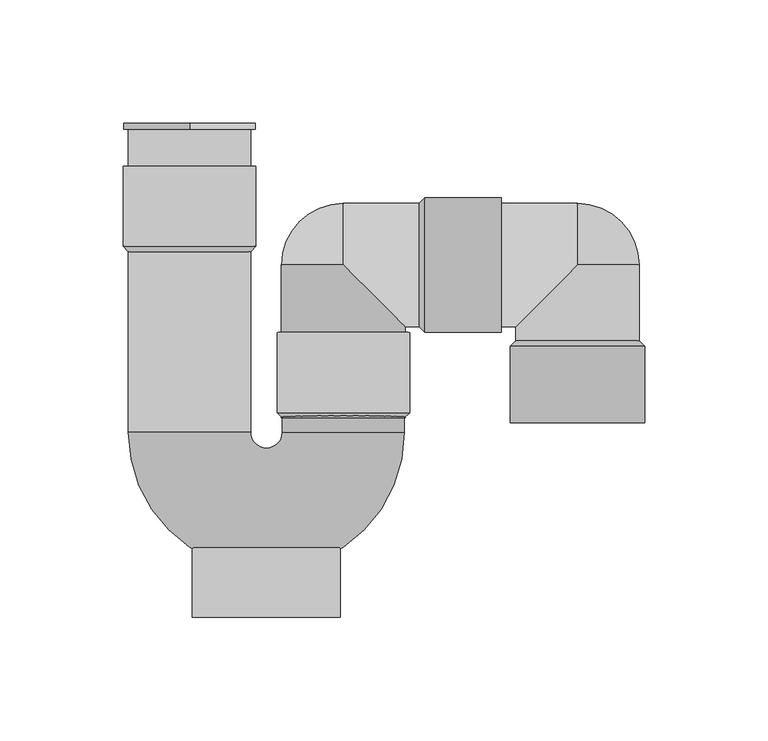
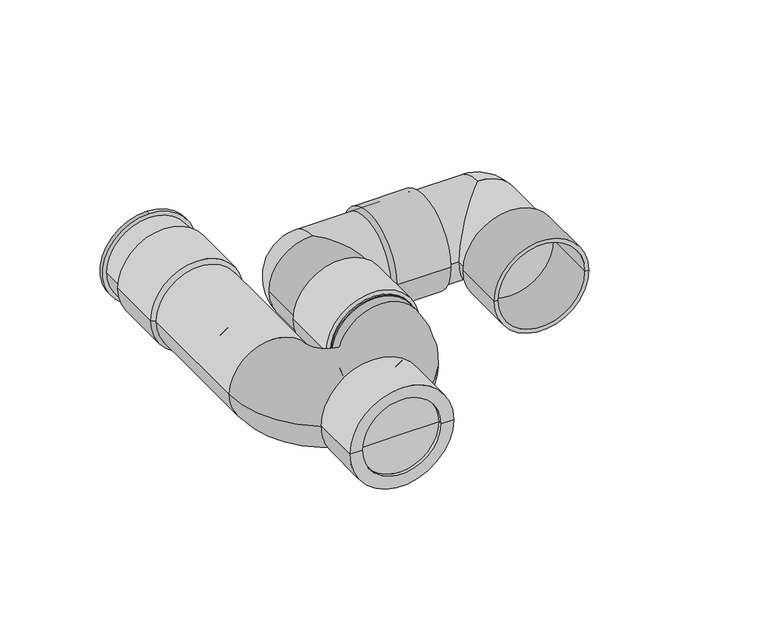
"""IFC4 building model written with IfcOpenShell, lengths in millimetres: pipe fitting geometry, NLRS_52_UN_PIF_PVC Universeel Sifon_PipeLife : Grijs, var. DN/OD."""

import ifcopenshell
import ifcopenshell.guid

model = None  # the IFC model being written
_history = None  # IfcOwnerHistory: only IFC2X3 demands one
_inside = {}  # id of a spatial element -> (the spatial element, [elements in it])
_under = {}  # id of a project, library or spatial element -> (it, [spatial elements below it])
_declared = {}  # id of a project -> (the project, [libraries it declares])
_typed = {}  # id of a type object -> (the type object, [elements of that type])
_made_of = {}  # id of a material, layer set ... -> (it, [elements and type objects made of it])


def new_model(schema):
    """Start an empty IFC model of exactly this schema.

    Asked for "IFC4X3", IfcOpenShell would pick the latest addendum, in which some entities
    have other attributes; the version numbers below select the first issue.
    IFC2X3 requires an IfcOwnerHistory on every rooted entity: one is made here for all.
    """
    global model, _history
    if schema == "IFC4X3":
        model = ifcopenshell.file(schema_version=(4, 3, 0, 0))
    else:
        model = ifcopenshell.file(schema=schema)
    _inside.clear()
    _under.clear()
    _declared.clear()
    _typed.clear()
    _made_of.clear()
    _history = None
    if model.schema == "IFC2X3":
        org = make("IfcOrganization", Name="unknown")
        user = make(
            "IfcPersonAndOrganization",
            ThePerson=make("IfcPerson", FamilyName="unknown"),
            TheOrganization=org,
        )
        app = make(
            "IfcApplication",
            ApplicationDeveloper=org,
            Version="unknown",
            ApplicationFullName="unknown",
            ApplicationIdentifier="unknown",
        )
        _history = make(
            "IfcOwnerHistory",
            OwningUser=user,
            OwningApplication=app,
            ChangeAction="ADDED",
            CreationDate=0,
        )
    return model


def make(cls, **values):
    """One entity of the class cls with the attributes given. An attribute that is None is left unset."""
    return model.create_entity(
        cls, **{name: value for name, value in values.items() if value is not None}
    )


def rooted(cls, **values):
    """An entity with a GlobalId (a new one), such as an element, a storey or a relation."""
    return make(cls, GlobalId=ifcopenshell.guid.new(), OwnerHistory=_history, **values)


def si_unit(unit_type, name, prefix=None):
    """IfcSIUnit, for example si_unit("LENGTHUNIT", "METRE", prefix="MILLI")."""
    return make("IfcSIUnit", UnitType=unit_type, Prefix=prefix, Name=name)


def assignment(units):
    """IfcUnitAssignment: the units of a project."""
    return None if units is None else make("IfcUnitAssignment", Units=units)


def point(xyz):
    """IfcCartesianPoint."""
    return None if xyz is None else make("IfcCartesianPoint", Coordinates=xyz)


def direction(xyz):
    """IfcDirection."""
    return None if xyz is None else make("IfcDirection", DirectionRatios=xyz)


def frame(location, z_axis=None, x_axis=None):
    """IfcAxis2Placement3D, a coordinate frame: its origin and axes. An axis left out is left unset."""
    return make(
        "IfcAxis2Placement3D",
        Location=point(location),
        Axis=direction(z_axis),
        RefDirection=direction(x_axis),
    )


def frame_2d(location, x_axis=None):
    """IfcAxis2Placement2D, a coordinate frame in the plane: its origin and x axis."""
    return make(
        "IfcAxis2Placement2D", Location=point(location), RefDirection=direction(x_axis)
    )


def origin():
    """The frame at (0, 0, 0) with its axes left unset."""
    return frame((0.0, 0.0, 0.0))


def origin_2d():
    """The frame at (0, 0) in the plane with its x axis left unset."""
    return frame_2d((0.0, 0.0))


def place(relative_to, where):
    """IfcLocalPlacement: puts the frame where relative to a parent placement (None: the world)."""
    return make(
        "IfcLocalPlacement", PlacementRelTo=relative_to, RelativePlacement=where
    )


def context(
    kind, dimensions, precision=None, world=None, true_north=None, identifier=None
):
    """IfcGeometricRepresentationContext, for example the 3D "Model" context."""
    return make(
        "IfcGeometricRepresentationContext",
        ContextIdentifier=identifier,
        ContextType=kind,
        CoordinateSpaceDimension=dimensions,
        Precision=precision,
        WorldCoordinateSystem=world,
        TrueNorth=true_north,
    )


def project(units=None, contexts=None):
    """IfcProject with its units and contexts."""
    return rooted(
        "IfcProject",
        Name="project",
        RepresentationContexts=contexts,
        UnitsInContext=assignment(units),
    )


def spatial(cls, under=None, at=None, **own):
    """A site, building, storey or space (cls), placed at a placement, below another one or the project."""
    s = rooted(cls, ObjectPlacement=at, **own)
    if under is not None:
        _under.setdefault(under.id(), (under, []))[1].append(s)
    return s


def polyline(points):
    """IfcPolyline through the points."""
    return make("IfcPolyline", Points=[point(p) for p in points])


def circle_curve(where, radius):
    """IfcCircle in the frame where."""
    return make("IfcCircle", Position=where, Radius=radius)


def ellipse_curve(where, semi_axis1, semi_axis2):
    """IfcEllipse in the frame where."""
    return make(
        "IfcEllipse", Position=where, SemiAxis1=semi_axis1, SemiAxis2=semi_axis2
    )


def trimmed(basis, trim1, trim2, sense, master):
    """IfcTrimmedCurve: the piece of a basis curve between two trims."""
    return make(
        "IfcTrimmedCurve",
        BasisCurve=basis,
        Trim1=trim1,
        Trim2=trim2,
        SenseAgreement=sense,
        MasterRepresentation=master,
    )


def segment(curve, same_sense, transition):
    """IfcCompositeCurveSegment."""
    return make(
        "IfcCompositeCurveSegment",
        Transition=transition,
        SameSense=same_sense,
        ParentCurve=curve,
    )


def composite_curve(segments, self_intersect=None):
    """IfcCompositeCurve: segments joined end to end."""
    return make("IfcCompositeCurve", Segments=segments, SelfIntersect=self_intersect)


def outline(outer, holes=None, kind="AREA"):
    """IfcArbitraryClosedProfileDef: a profile drawn as a closed curve; with holes, ...WithVoids."""
    if holes is None:
        return make("IfcArbitraryClosedProfileDef", ProfileType=kind, OuterCurve=outer)
    return make(
        "IfcArbitraryProfileDefWithVoids",
        ProfileType=kind,
        OuterCurve=outer,
        InnerCurves=holes,
    )


def extrude(swept, where, along, depth):
    """IfcExtrudedAreaSolid: the profile swept, set in the frame where, extruded along a direction by depth."""
    return make(
        "IfcExtrudedAreaSolid",
        SweptArea=swept,
        Position=where,
        ExtrudedDirection=direction(along),
        Depth=depth,
    )


def shape(context_of_items, identifier, shape_type, items):
    """IfcShapeRepresentation: the items that make up one representation, for example the "Body"."""
    return make(
        "IfcShapeRepresentation",
        ContextOfItems=context_of_items,
        RepresentationIdentifier=identifier,
        RepresentationType=shape_type,
        Items=items,
    )


def source(mapping_origin, context_of_items, identifier, shape_type, items):
    """IfcRepresentationMap: a shape defined once, which mapped items show again and again."""
    return make(
        "IfcRepresentationMap",
        MappingOrigin=mapping_origin,
        MappedRepresentation=shape(context_of_items, identifier, shape_type, items),
    )


def transform(
    local_origin,
    x_axis=None,
    y_axis=None,
    z_axis=None,
    scale=None,
    scale2=None,
    scale3=None,
    uniform=True,
):
    """IfcCartesianTransformationOperator3D, or its non-uniform kind. x_axis, y_axis, z_axis: its Axis1, 2, 3."""
    if uniform:
        return make(
            "IfcCartesianTransformationOperator3D",
            Axis1=direction(x_axis),
            Axis2=direction(y_axis),
            LocalOrigin=point(local_origin),
            Scale=scale,
            Axis3=direction(z_axis),
        )
    return make(
        "IfcCartesianTransformationOperator3DnonUniform",
        Axis1=direction(x_axis),
        Axis2=direction(y_axis),
        LocalOrigin=point(local_origin),
        Scale=scale,
        Axis3=direction(z_axis),
        Scale2=scale2,
        Scale3=scale3,
    )


def mapped(mapping_source, mapping_target):
    """IfcMappedItem: shows the shape of a source again, moved by a transform."""
    return make(
        "IfcMappedItem", MappingSource=mapping_source, MappingTarget=mapping_target
    )


def made_of(thing, what):
    """Note that an element or type object is made of a material, layer set ...; save() writes the relation."""
    if what is not None:
        _made_of.setdefault(what.id(), (what, []))[1].append(thing)
    return thing


def element(
    cls,
    number,
    at=None,
    inside=None,
    cuts=None,
    type_object=None,
    material=None,
    context=None,
    identifier="Body",
    shape_type=None,
    held_by="IfcProductDefinitionShape",
    body=None,
    shapes=None,
    **own,
):
    """One element of the class cls, such as IfcWall. Its Tag is "e" and its number.

    at: its placement. inside: the storey or other place that contains it. cuts: it is an
    opening in that element (IfcRelVoidsElement). A single representation is given by context,
    identifier, shape_type and body (its items); several are given by shapes. held_by: the class
    of the entity that holds the representations. save() writes the other relations.
    """
    e = rooted(cls, Tag="e%d" % number, ObjectPlacement=at, **own)
    if body is not None:
        shapes = [shape(context, identifier, shape_type, body)]
    if shapes is not None:
        e.Representation = make(held_by, Representations=shapes)
    if inside is not None:
        _inside.setdefault(inside.id(), (inside, []))[1].append(e)
    if cuts is not None:
        rooted(
            "IfcRelVoidsElement", RelatingBuildingElement=cuts, RelatedOpeningElement=e
        )
    if type_object is not None:
        _typed.setdefault(type_object.id(), (type_object, []))[1].append(e)
    return made_of(e, material)


def aggregate(whole, parts):
    """IfcRelAggregates: a whole, such as a stair, and the parts it consists of."""
    return rooted("IfcRelAggregates", RelatingObject=whole, RelatedObjects=parts)


def save(model, path):
    """Write the relations noted so far, then the file.

    IfcRelAggregates (storeys below a building ...), IfcRelContainedInSpatialStructure (elements
    in a storey), IfcRelDefinesByType, IfcRelAssociatesMaterial and IfcRelDeclares: one each for
    every whole, place, type object, material and project.
    """
    for whole, parts in _under.values():
        aggregate(whole, parts)
    for where, things in _inside.values():
        rooted(
            "IfcRelContainedInSpatialStructure",
            RelatedElements=things,
            RelatingStructure=where,
        )
    for kind, things in _typed.values():
        rooted("IfcRelDefinesByType", RelatedObjects=things, RelatingType=kind)
    for what, things in _made_of.values():
        rooted("IfcRelAssociatesMaterial", RelatedObjects=things, RelatingMaterial=what)
    for by, libraries in _declared.values():
        rooted("IfcRelDeclares", RelatingContext=by, RelatedDefinitions=libraries)
    model.write(path)


def plane_surface(at):
    """IfcPlane: the flat surface through the origin of the frame at, square to its z axis."""
    return make("IfcPlane", Position=at)


def cylinder_surface(at, radius):
    """IfcCylindricalSurface: all points at the distance radius from the z axis of the frame at."""
    return make("IfcCylindricalSurface", Position=at, Radius=radius)


def revolved_surface(curve, axis_point, axis_direction):
    """IfcSurfaceOfRevolution: the curve turned about the line through axis_point along axis_direction."""
    return make(
        "IfcSurfaceOfRevolution",
        SweptCurve=make("IfcArbitraryOpenProfileDef", ProfileType="CURVE", Curve=curve),
        AxisPosition=make("IfcAxis1Placement", Location=point(axis_point), Axis=direction(axis_direction)),
    )


def advanced_brep(points, edges, surfaces, faces):
    """IfcAdvancedBrep: a solid bounded by faces that lie on surfaces and meet in shared edges.

    An edge is (start, end): straight between two places in points (the first is 0);
    or (start, end, curve); or (start, end, curve, False) where it runs against its curve.
    A face is (place in surfaces, loops), or (place, loops, False) where it looks against
    its surface's normal. A loop lists edges by number (the first is 1), with a minus sign
    where the edge is run from its end to its start. The first loop is the outer one.
    """
    corners = [point(p) for p in points]
    vertices = [make("IfcVertexPoint", VertexGeometry=c) for c in corners]
    made = []
    for start, end, *more in edges:
        made.append(
            make(
                "IfcEdgeCurve",
                EdgeStart=vertices[start],
                EdgeEnd=vertices[end],
                EdgeGeometry=more[0] if more else make("IfcPolyline", Points=[corners[start], corners[end]]),
                SameSense=more[1] if len(more) > 1 else True,
            )
        )
    hull = []
    for where, loops, *sense in faces:
        bounds = []
        for j, loop in enumerate(loops):
            ring = [make("IfcOrientedEdge", EdgeElement=made[abs(k) - 1], Orientation=k > 0) for k in loop]
            bounds.append(
                make(
                    "IfcFaceOuterBound" if j == 0 else "IfcFaceBound",
                    Bound=make("IfcEdgeLoop", EdgeList=ring),
                    Orientation=True,
                )
            )
        hull.append(make("IfcAdvancedFace", Bounds=bounds, FaceSurface=surfaces[where], SameSense=sense[0] if sense else True))
    return make("IfcAdvancedBrep", Outer=make("IfcClosedShell", CfsFaces=hull))


def pipe_fitting_5b2b1213(model_context):
    return source(origin(), model_context, "Body", "SolidModel", [
        advanced_brep(
        [(126.4, -11.6183548, 0.0), (126.4, 42.9816452, 0.0), (126.4, 40.7816452, 0.0), (126.4, -9.4183548, 0.0), (95.4, -11.6183548, 0.0), (95.4, 42.9816452, 0.0), (93.2, -9.4183548, 0.0), (93.2, 40.7816452, 0.0)],
        [
            (0, 1, circle_curve(frame((126.4, 15.6816452, 0.0), z_axis=(1.0, 0.0, 0.0), x_axis=(0.0, 1.0000000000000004, 0.0)), 27.3)),
            (1, 2),
            (2, 3, circle_curve(frame((126.4, 15.6816452, 0.0), z_axis=(-1.0, 0.0, 0.0), x_axis=(0.0, 1.0000000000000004, 0.0)), 25.1)),
            (3, 0),
            (1, 0, circle_curve(frame((126.4, 15.6816452, 0.0), z_axis=(1.0, 0.0, 0.0), x_axis=(0.0, 1.0000000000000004, 0.0)), 27.3)),
            (3, 2, circle_curve(frame((126.4, 15.6816452, 0.0), z_axis=(-1.0, 0.0, 0.0), x_axis=(0.0, 1.0000000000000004, 0.0)), 25.1)),
            (4, 5, circle_curve(frame((95.4, 15.6816452, 0.0), z_axis=(1.0, 0.0, 0.0), x_axis=(0.0, 1.0000000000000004, 0.0)), 27.3)),
            (5, 1),
            (0, 4),
            (5, 4, circle_curve(frame((95.4, 15.6816452, 0.0), z_axis=(1.0, 0.0, 0.0), x_axis=(0.0, 1.0000000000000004, 0.0)), 27.3)),
            (6, 7, circle_curve(frame((93.2, 15.6816452, 0.0), z_axis=(1.0, 0.0, 0.0), x_axis=(0.0, 1.0000000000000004, 0.0)), 25.1)),
            (7, 5),
            (4, 6),
            (7, 6, circle_curve(frame((93.2, 15.6816452, 0.0), z_axis=(1.0, 0.0, 0.0), x_axis=(0.0, 1.0000000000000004, 0.0)), 25.1)),
            (2, 7),
            (6, 3),
        ],
        [
            plane_surface(frame((126.4, 15.6816452, 0.0), z_axis=(1.0, 0.0, 0.0), x_axis=(0.0, 1.0, 0.0))),
            cylinder_surface(frame((95.4, 15.6816452, 0.0), z_axis=(-1.0000000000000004, 0.0, 0.0), x_axis=(0.0, 1.0000000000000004, 0.0)), 27.3),
            revolved_surface(polyline([(95.4, 42.9816452, 0.0), (93.2, 40.7816452, 0.0)]), (95.4, 15.6816452, 0.0), (-1.0000000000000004, 0.0, 0.0)),
            revolved_surface(polyline([(93.2, 40.781645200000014, 0.0), (126.40000000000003, 40.781645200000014, 0.0)]), (95.4, 15.6816452, 0.0), (-1.0000000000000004, 0.0, 0.0)),
        ],
        [
            (0, [[1, 2, 3, 4]]),
            (0, [[5, -4, 6, -2]]),
            (1, [[7, 8, -1, 9]]),
            (1, [[10, -9, -5, -8]]),
            (2, [[11, 12, -7, 13]]),
            (2, [[14, -13, -10, -12]]),
            (3, [[-3, 15, -11, 16]]),
            (3, [[-6, -16, -14, -15]]),
        ],
    ),
        advanced_brep(
        [(37.3, -46.3183548, 0.0), (87.5, -46.3183548, 0.0), (87.5, -9.4183548, 0.0), (62.4, 15.6816452, 25.1), (37.3, 15.6816452, 0.0), (62.4, 15.6816452, -25.1), (95.4, 40.7816452, 0.0), (95.4, -9.4183548, 0.0), (62.4, 40.7816452, 0.0)],
        [
            (0, 1, circle_curve(frame((62.4, -46.3183548, 0.0), z_axis=(0.0, -1.0, 0.0), x_axis=(1.0000000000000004, 0.0, 0.0)), 25.1)),
            (1, 0, circle_curve(frame((62.4, -46.3183548, 0.0), z_axis=(0.0, -1.0, 0.0), x_axis=(1.0000000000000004, 0.0, 0.0)), 25.1)),
            (1, 2),
            (2, 3, ellipse_curve(frame((62.4, 15.6816452, 0.0), z_axis=(-0.7071067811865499, -0.7071067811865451, 0.0), x_axis=(-0.7071067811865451, 0.7071067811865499, 0.0)), 35.4967604, 25.1)),
            (3, 4, circle_curve(frame((62.4, 15.6816452, 0.0), z_axis=(0.0, -1.0, 0.0), x_axis=(1.0000000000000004, 0.0, 0.0)), 25.1)),
            (4, 0),
            (4, 5, circle_curve(frame((62.4, 15.6816452, 0.0), z_axis=(0.0, -1.0, 0.0), x_axis=(1.0000000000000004, 0.0, 0.0)), 25.1)),
            (5, 2, ellipse_curve(frame((62.4, 15.6816452, 0.0), z_axis=(-0.7071067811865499, -0.7071067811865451, 0.0), x_axis=(-0.7071067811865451, 0.7071067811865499, 0.0)), 35.4967604, 25.1)),
            (6, 7, circle_curve(frame((95.4, 15.6816452, 0.0), z_axis=(1.0, 0.0, 0.0), x_axis=(0.0, -1.0000000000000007, 0.0)), 25.1)),
            (7, 6, circle_curve(frame((95.4, 15.6816452, 0.0), z_axis=(1.0, 0.0, 0.0), x_axis=(0.0, -1.0000000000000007, 0.0)), 25.1)),
            (6, 8),
            (8, 3, circle_curve(frame((62.4, 15.6816452, 0.0), z_axis=(1.0, 0.0, 0.0), x_axis=(0.0, -1.0000000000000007, 0.0)), 25.1)),
            (2, 7),
            (5, 8, circle_curve(frame((62.4, 15.6816452, 0.0), z_axis=(1.0, 0.0, 0.0), x_axis=(0.0, -1.0000000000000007, 0.0)), 25.1)),
        ],
        [
            plane_surface(frame((62.4, -46.3183548, 0.0), z_axis=(0.0, -1.0, 0.0), x_axis=(0.0, 0.0, 1.0))),
            cylinder_surface(frame((62.4, 15.6816452, 0.0), z_axis=(0.0, 1.0000000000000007, 0.0), x_axis=(1.0000000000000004, 0.0, 0.0)), 25.1),
            plane_surface(frame((95.4, 15.6816452, 0.0), z_axis=(1.0, 0.0, 0.0), x_axis=(0.0, 0.0, 1.0))),
            cylinder_surface(frame((95.4, 15.6816452, 0.0), z_axis=(1.0000000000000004, 0.0, 0.0), x_axis=(0.0, -1.0000000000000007, 0.0)), 25.1),
            revolved_surface(trimmed(ellipse_curve(frame((62.4, 15.6816452, 0.0), z_axis=(1.0000000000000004, 0.0, 0.0), x_axis=(0.0, 0.0, 1.0000000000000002)), 25.1, 25.1), [point((62.4, 15.6816452, -25.1))], [point((62.4, 15.6816452, 25.1))], True, "CARTESIAN"), (62.4, 15.6816452, -6.3375), (0.0, 0.0, 1.0000000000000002)),
        ],
        [
            (0, [[1, 2]]),
            (1, [[-2, 3, 4, 5, 6]]),
            (1, [[-1, -6, 7, 8, -3]]),
            (2, [[9, 10]]),
            (3, [[-9, 11, 12, -4, 13]]),
            (3, [[-10, -13, -8, 14, -11]]),
            (4, [[-5, -12, -14, -7]]),
        ],
    ),
        advanced_brep(
        [(130.1, -48.3183548, 0.0), (184.7, -48.3183548, 0.0), (182.5, -48.3183548, 0.0), (132.3, -48.3183548, 0.0), (130.1, -17.3183548, 0.0), (184.7, -17.3183548, 0.0), (132.3, -15.1183548, 0.0), (182.5, -15.1183548, 0.0)],
        [
            (0, 1, circle_curve(frame((157.4, -48.3183548, 0.0), z_axis=(0.0, -1.0, 0.0), x_axis=(1.0000000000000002, 0.0, 0.0)), 27.3)),
            (1, 2),
            (2, 3, circle_curve(frame((157.4, -48.3183548, 0.0), z_axis=(0.0, 1.0, 0.0), x_axis=(1.0000000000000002, 0.0, 0.0)), 25.1)),
            (3, 0),
            (1, 0, circle_curve(frame((157.4, -48.3183548, 0.0), z_axis=(0.0, -1.0, 0.0), x_axis=(1.0000000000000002, 0.0, 0.0)), 27.3)),
            (3, 2, circle_curve(frame((157.4, -48.3183548, 0.0), z_axis=(0.0, 1.0, 0.0), x_axis=(1.0000000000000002, 0.0, 0.0)), 25.1)),
            (4, 5, circle_curve(frame((157.4, -17.3183548, 0.0), z_axis=(0.0, -1.0, 0.0), x_axis=(1.0000000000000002, 0.0, 0.0)), 27.3)),
            (5, 1),
            (0, 4),
            (5, 4, circle_curve(frame((157.4, -17.3183548, 0.0), z_axis=(0.0, -1.0, 0.0), x_axis=(1.0000000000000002, 0.0, 0.0)), 27.3)),
            (6, 7, circle_curve(frame((157.4, -15.1183548, 0.0), z_axis=(0.0, -1.0, 0.0), x_axis=(1.0000000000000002, 0.0, 0.0)), 25.1)),
            (7, 5),
            (4, 6),
            (7, 6, circle_curve(frame((157.4, -15.1183548, 0.0), z_axis=(0.0, -1.0, 0.0), x_axis=(1.0000000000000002, 0.0, 0.0)), 25.1)),
            (2, 7),
            (6, 3),
        ],
        [
            plane_surface(frame((157.4, -48.3183548, 0.0), z_axis=(0.0, -1.0, 0.0), x_axis=(1.0, 0.0, 0.0))),
            cylinder_surface(frame((157.4, -17.3183548, 0.0), z_axis=(0.0, 1.0000000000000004, 0.0), x_axis=(1.0000000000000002, 0.0, 0.0)), 27.3),
            revolved_surface(polyline([(184.7, -17.3183548, 0.0), (182.5, -15.1183548, 0.0)]), (157.4, -17.3183548, 0.0), (0.0, 1.0000000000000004, 0.0)),
            revolved_surface(polyline([(182.5, -15.118354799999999, 0.0), (182.5, -48.31835480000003, 0.0)]), (157.4, -17.3183548, 0.0), (0.0, 1.0000000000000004, 0.0)),
        ],
        [
            (0, [[1, 2, 3, 4]]),
            (0, [[5, -4, 6, -2]]),
            (1, [[7, 8, -1, 9]]),
            (1, [[10, -9, -5, -8]]),
            (2, [[11, 12, -7, 13]]),
            (2, [[14, -13, -10, -12]]),
            (3, [[-3, 15, -11, 16]]),
            (3, [[-6, -16, -14, -15]]),
        ],
    ),
        advanced_brep(
        [(95.4, 40.7816452, 0.0), (95.4, -9.4183548, 0.0), (132.3, -9.4183548, 0.0), (157.4, 15.6816452, 25.1), (157.4, 40.7816452, 0.0), (157.4, 15.6816452, -25.1), (182.5, -17.3183548, 0.0), (132.3, -17.3183548, 0.0), (182.5, 15.6816452, 0.0)],
        [
            (0, 1, circle_curve(frame((95.4, 15.6816452, 0.0), z_axis=(-1.0, 0.0, 0.0), x_axis=(0.0, -1.0000000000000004, 0.0)), 25.1)),
            (1, 0, circle_curve(frame((95.4, 15.6816452, 0.0), z_axis=(-1.0, 0.0, 0.0), x_axis=(0.0, -1.0000000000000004, 0.0)), 25.1)),
            (1, 2),
            (2, 3, ellipse_curve(frame((157.4, 15.6816452, 0.0), z_axis=(-0.707106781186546, 0.7071067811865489, 0.0), x_axis=(0.7071067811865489, 0.707106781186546, 0.0)), 35.4967604, 25.1)),
            (3, 4, circle_curve(frame((157.4, 15.6816452, 0.0), z_axis=(-1.0, 0.0, 0.0), x_axis=(0.0, -1.0000000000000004, 0.0)), 25.1)),
            (4, 0),
            (4, 5, circle_curve(frame((157.4, 15.6816452, 0.0), z_axis=(-1.0, 0.0, 0.0), x_axis=(0.0, -1.0000000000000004, 0.0)), 25.1)),
            (5, 2, ellipse_curve(frame((157.4, 15.6816452, 0.0), z_axis=(-0.707106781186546, 0.7071067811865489, 0.0), x_axis=(0.7071067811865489, 0.707106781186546, 0.0)), 35.4967604, 25.1)),
            (6, 7, circle_curve(frame((157.4, -17.3183548, 0.0), z_axis=(0.0, -1.0, 0.0), x_axis=(-1.0000000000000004, 0.0, 0.0)), 25.1)),
            (7, 6, circle_curve(frame((157.4, -17.3183548, 0.0), z_axis=(0.0, -1.0, 0.0), x_axis=(-1.0000000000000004, 0.0, 0.0)), 25.1)),
            (6, 8),
            (8, 3, circle_curve(frame((157.4, 15.6816452, 0.0), z_axis=(0.0, -1.0, 0.0), x_axis=(-1.0000000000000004, 0.0, 0.0)), 25.1)),
            (2, 7),
            (5, 8, circle_curve(frame((157.4, 15.6816452, 0.0), z_axis=(0.0, -1.0, 0.0), x_axis=(-1.0000000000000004, 0.0, 0.0)), 25.1)),
        ],
        [
            plane_surface(frame((95.4, 15.6816452, 0.0), z_axis=(-1.0, 0.0, 0.0), x_axis=(0.0, 0.0, 1.0))),
            cylinder_surface(frame((157.4, 15.6816452, 0.0), z_axis=(1.0000000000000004, 0.0, 0.0), x_axis=(0.0, -1.0000000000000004, 0.0)), 25.1),
            plane_surface(frame((157.4, -17.3183548, 0.0), z_axis=(0.0, -1.0, 0.0), x_axis=(0.0, 0.0, 1.0))),
            cylinder_surface(frame((157.4, -17.3183548, 0.0), z_axis=(0.0, -1.0000000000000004, 0.0), x_axis=(-1.0000000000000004, 0.0, 0.0)), 25.1),
            revolved_surface(trimmed(ellipse_curve(frame((157.4, 15.6816452, 0.0), z_axis=(0.0, -1.0000000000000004, 0.0), x_axis=(0.0, 0.0, 1.0)), 25.1, 25.1), [point((157.4, 15.6816452, -25.1))], [point((157.4, 15.6816452, 25.1))], True, "CARTESIAN"), (157.4, 15.6816452, -6.3375), (0.0, 0.0, 1.0)),
        ],
        [
            (0, [[1, 2]]),
            (1, [[-2, 3, 4, 5, 6]]),
            (1, [[-1, -6, 7, 8, -3]]),
            (2, [[9, 10]]),
            (3, [[-9, 11, 12, -4, 13]]),
            (3, [[-10, -13, -8, 14, -11]]),
            (4, [[-5, -12, -14, -7]]),
        ],
    ),
        advanced_brep(
        [(61.2, -99.0183548, 0.0), (1.2, -99.0183548, 0.0), (31.2, -99.0183548, 0.0), (61.2, -127.3183548, 0.0), (1.2, -127.3183548, 0.0), (53.95, -127.3183548, 0.0), (8.45, -127.3183548, 0.0), (53.95, -125.3183548, 0.0), (8.45, -125.3183548, 0.0), (31.2, -125.3183548, 0.0)],
        [
            (0, 1, circle_curve(frame((31.2, -99.0183548, 0.0), z_axis=(0.0, 1.0, 0.0), x_axis=(-1.0, 0.0, 0.0)), 30.0)),
            (1, 2),
            (2, 0),
            (1, 0, circle_curve(frame((31.2, -99.0183548, 0.0), z_axis=(0.0, 1.0, 0.0), x_axis=(-1.0, 0.0, 0.0)), 30.0)),
            (3, 4, circle_curve(frame((31.2, -127.3183548, 0.0), z_axis=(0.0, 1.0, 0.0), x_axis=(-1.0, 0.0, 0.0)), 30.0)),
            (4, 1),
            (0, 3),
            (4, 3, circle_curve(frame((31.2, -127.3183548, 0.0), z_axis=(0.0, 1.0, 0.0), x_axis=(-1.0, 0.0, 0.0)), 30.0)),
            (5, 6, circle_curve(frame((31.2, -127.3183548, 0.0), z_axis=(0.0, 1.0, 0.0), x_axis=(-1.0, 0.0, 0.0)), 22.75)),
            (6, 4),
            (3, 5),
            (6, 5, circle_curve(frame((31.2, -127.3183548, 0.0), z_axis=(0.0, 1.0, 0.0), x_axis=(-1.0, 0.0, 0.0)), 22.75)),
            (7, 8, circle_curve(frame((31.2, -125.3183548, 0.0), z_axis=(0.0, 1.0, 0.0), x_axis=(-1.0, 0.0, 0.0)), 22.75)),
            (8, 6),
            (5, 7),
            (8, 7, circle_curve(frame((31.2, -125.3183548, 0.0), z_axis=(0.0, 1.0, 0.0), x_axis=(-1.0, 0.0, 0.0)), 22.75)),
            (9, 8),
            (7, 9),
        ],
        [
            plane_surface(frame((31.2, -99.0183548, 0.0), z_axis=(0.0, 1.0, 0.0), x_axis=(-1.0, 0.0, 0.0))),
            cylinder_surface(frame((31.2, -127.3183548, 0.0), z_axis=(0.0, -1.0, 0.0), x_axis=(-1.0, 0.0, 0.0)), 30.0),
            plane_surface(frame((31.2, -127.3183548, 0.0), z_axis=(0.0, -1.0, 0.0), x_axis=(-1.0, 0.0, 0.0))),
            revolved_surface(polyline([(8.45, -127.3183548, 0.0), (8.45, -125.3183548, 0.0)]), (31.2, -127.3183548, 0.0), (0.0, -1.0, 0.0)),
            plane_surface(frame((31.2, -125.3183548, 0.0), z_axis=(0.0, -1.0, 0.0), x_axis=(-1.0, 0.0, 0.0))),
        ],
        [
            (0, [[1, 2, 3]]),
            (0, [[4, -3, -2]]),
            (1, [[5, 6, -1, 7]]),
            (1, [[8, -7, -4, -6]]),
            (2, [[9, 10, -5, 11]]),
            (2, [[12, -11, -8, -10]]),
            (3, [[13, 14, -9, 15]]),
            (3, [[16, -15, -12, -14]]),
            (4, [[17, -13, 18]]),
            (4, [[-18, -16, -17]]),
        ],
    ),
        advanced_brep(
        [(26.9, 23.1816452, 0.0), (-26.9, 23.1816452, 0.0), (-26.9, 55.6816452, 0.0), (26.9, 55.6816452, 0.0), (24.8, 21.0816452, 0.0), (-24.8, 21.0816452, 0.0), (24.8, 55.6816452, 0.0), (-24.8, 55.6816452, 0.0)],
        [
            (0, 1, circle_curve(frame((0.0, 23.1816452, 0.0), z_axis=(0.0, 1.0, 0.0), x_axis=(-1.0, 0.0, 0.0)), 26.9)),
            (1, 2),
            (2, 3, circle_curve(frame((0.0, 55.6816452, 0.0), z_axis=(0.0, -1.0, 0.0), x_axis=(-1.0, 0.0, 0.0)), 26.9)),
            (3, 0),
            (1, 0, circle_curve(frame((0.0, 23.1816452, 0.0), z_axis=(0.0, 1.0, 0.0), x_axis=(-1.0, 0.0, 0.0)), 26.9)),
            (3, 2, circle_curve(frame((0.0, 55.6816452, 0.0), z_axis=(0.0, -1.0, 0.0), x_axis=(-1.0, 0.0, 0.0)), 26.9)),
            (4, 5, circle_curve(frame((0.0, 21.0816452, 0.0), z_axis=(0.0, 1.0, 0.0), x_axis=(-1.0, 0.0, 0.0)), 24.8)),
            (5, 1),
            (0, 4),
            (5, 4, circle_curve(frame((0.0, 21.0816452, 0.0), z_axis=(0.0, 1.0, 0.0), x_axis=(-1.0, 0.0, 0.0)), 24.8)),
            (6, 7, circle_curve(frame((0.0, 55.6816452, 0.0), z_axis=(0.0, 1.0, 0.0), x_axis=(-1.0, 0.0, 0.0)), 24.8)),
            (7, 5),
            (4, 6),
            (7, 6, circle_curve(frame((0.0, 55.6816452, 0.0), z_axis=(0.0, 1.0, 0.0), x_axis=(-1.0, 0.0, 0.0)), 24.8)),
            (2, 7),
            (6, 3),
        ],
        [
            cylinder_surface(frame((0.0, 65.1287367, 0.0), z_axis=(0.0, -1.0, 0.0), x_axis=(-1.0, 0.0, 0.0)), 26.9),
            revolved_surface(polyline([(-26.9, 23.1816452, 0.0), (-24.8, 21.0816452, 0.0)]), (0.0, 65.1287367, 0.0), (0.0, -1.0, 0.0)),
            revolved_surface(polyline([(-24.8, 21.081645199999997, 0.0), (-24.8, 55.6816452, 0.0)]), (0.0, 65.1287367, 0.0), (0.0, -1.0, 0.0)),
            plane_surface(frame((0.0, 55.6816452, 0.0), z_axis=(0.0, 1.0, 0.0), x_axis=(-1.0, 0.0, 0.0))),
        ],
        [
            (0, [[1, 2, 3, 4]]),
            (0, [[5, -4, 6, -2]]),
            (1, [[7, 8, -1, 9]]),
            (1, [[10, -9, -5, -8]]),
            (2, [[11, 12, -7, 13]]),
            (2, [[14, -13, -10, -12]]),
            (3, [[-3, 15, -11, 16]]),
            (3, [[-6, -16, -14, -15]]),
        ],
    ),
        extrude(outline(composite_curve([segment(trimmed(circle_curve(origin_2d(), 26.9), [point((-26.9, 0.0))], [point((26.9, 0.0))], False, "CARTESIAN"), True, "CONTINUOUS"), segment(trimmed(circle_curve(origin_2d(), 26.9), [point((26.9, 0.0))], [point((-26.9, 0.0))], False, "CARTESIAN"), True, "CONTINUOUS")], self_intersect=False)), frame((0.0, 70.7816452, 0.0), z_axis=(0.0, 1.0, 0.0), x_axis=(0.0, 0.0, 1.0)), (0.0, 0.0, 1.0), 2.4),
        advanced_brep(
        [(89.3, -44.2183548, 0.0), (35.5, -44.2183548, 0.0), (35.5, -11.7183548, 0.0), (89.3, -11.7183548, 0.0), (87.2, -46.3183548, 0.0), (37.6, -46.3183548, 0.0), (62.4, -11.7183548, 0.0), (62.4, -46.3183548, 0.0)],
        [
            (0, 1, circle_curve(frame((62.4, -44.2183548, 0.0), z_axis=(0.0, 1.0, 0.0), x_axis=(-1.0, 0.0, 0.0)), 26.9)),
            (1, 2),
            (2, 3, circle_curve(frame((62.4, -11.7183548, 0.0), z_axis=(0.0, -1.0, 0.0), x_axis=(-1.0, 0.0, 0.0)), 26.9)),
            (3, 0),
            (1, 0, circle_curve(frame((62.4, -44.2183548, 0.0), z_axis=(0.0, 1.0, 0.0), x_axis=(-1.0, 0.0, 0.0)), 26.9)),
            (3, 2, circle_curve(frame((62.4, -11.7183548, 0.0), z_axis=(0.0, -1.0, 0.0), x_axis=(-1.0, 0.0, 0.0)), 26.9)),
            (4, 5, circle_curve(frame((62.4, -46.3183548, 0.0), z_axis=(0.0, 1.0, 0.0), x_axis=(-1.0, 0.0, 0.0)), 24.8)),
            (5, 1),
            (0, 4),
            (5, 4, circle_curve(frame((62.4, -46.3183548, 0.0), z_axis=(0.0, 1.0, 0.0), x_axis=(-1.0, 0.0, 0.0)), 24.8)),
            (2, 6),
            (6, 3),
            (7, 5),
            (4, 7),
        ],
        [
            cylinder_surface(frame((62.4, -32.6407944, 0.0), z_axis=(0.0, -1.0, 0.0), x_axis=(-1.0, 0.0, 0.0)), 26.9),
            revolved_surface(polyline([(35.5, -44.2183548, 0.0), (37.6, -46.3183548, 0.0)]), (62.4, -32.6407944, 0.0), (0.0, -1.0, 0.0)),
            plane_surface(frame((62.4, -11.7183548, 0.0), z_axis=(0.0, 1.0, 0.0), x_axis=(-1.0, 0.0, 0.0))),
            plane_surface(frame((62.4, -46.3183548, 0.0), z_axis=(0.0, -1.0, 0.0), x_axis=(-1.0, 0.0, 0.0))),
        ],
        [
            (0, [[1, 2, 3, 4]]),
            (0, [[5, -4, 6, -2]]),
            (1, [[7, 8, -1, 9]]),
            (1, [[10, -9, -5, -8]]),
            (2, [[-3, 11, 12]]),
            (2, [[-6, -12, -11]]),
            (3, [[13, -7, 14]]),
            (3, [[-14, -10, -13]]),
        ],
    ),
        advanced_brep(
        [(37.6, -46.3183548, 0.0), (87.2, -46.3183548, 0.0), (37.6, -52.2183548, 0.0), (87.2, -52.2183548, 0.0), (-24.8, -52.2183548, 0.0), (24.8, -52.2183548, 0.0), (24.8, 73.1816452, 0.0), (-24.8, 73.1816452, 0.0)],
        [
            (0, 1, circle_curve(frame((62.4, -46.3183548, 0.0), z_axis=(0.0, 1.0, 0.0), x_axis=(1.0, 0.0, 0.0)), 24.8)),
            (1, 0, circle_curve(frame((62.4, -46.3183548, 0.0), z_axis=(0.0, 1.0, 0.0), x_axis=(1.0, 0.0, 0.0)), 24.8)),
            (0, 2),
            (2, 3, circle_curve(frame((62.4, -52.2183548, 0.0), z_axis=(0.0, 1.0, 0.0), x_axis=(1.0, 0.0, 0.0)), 24.8)),
            (3, 1),
            (3, 2, circle_curve(frame((62.4, -52.2183548, 0.0), z_axis=(0.0, 1.0, 0.0), x_axis=(1.0, 0.0, 0.0)), 24.8)),
            (4, 3, circle_curve(frame((31.2, -52.2183548, 0.0), z_axis=(0.0, 0.0, 1.0), x_axis=(1.0, 0.0, 0.0)), 56.0)),
            (2, 5, circle_curve(frame((31.2, -52.2183548, 0.0), z_axis=(0.0, 0.0, -1.0), x_axis=(1.0, 0.0, 0.0)), 6.4)),
            (5, 4, circle_curve(frame((0.0, -52.2183548, 0.0), z_axis=(0.0, -1.0, 0.0), x_axis=(-1.0, 0.0, 0.0)), 24.8)),
            (4, 5, circle_curve(frame((0.0, -52.2183548, 0.0), z_axis=(0.0, -1.0, 0.0), x_axis=(-1.0, 0.0, 0.0)), 24.8)),
            (6, 7, circle_curve(frame((0.0, 73.1816452, 0.0), z_axis=(0.0, 1.0, 0.0), x_axis=(-1.0, 0.0, 0.0)), 24.8)),
            (7, 6, circle_curve(frame((0.0, 73.1816452, 0.0), z_axis=(0.0, 1.0, 0.0), x_axis=(-1.0, 0.0, 0.0)), 24.8)),
            (5, 6),
            (7, 4),
        ],
        [
            plane_surface(frame((62.4, -46.3183548, 0.0), z_axis=(0.0, 1.0, 0.0), x_axis=(0.0, 0.0, 1.0))),
            cylinder_surface(frame((62.4, -46.3183548, 0.0), z_axis=(0.0, 1.0, 0.0), x_axis=(1.0, 0.0, 0.0)), 24.8),
            revolved_surface(trimmed(ellipse_curve(frame((62.4, -52.2183548, 0.0), z_axis=(0.0, 1.0, 0.0), x_axis=(1.0, 0.0, 0.0)), 24.8, 24.8), [point((37.6, -52.2183548, 0.0))], [point((87.2, -52.2183548, 0.0))], True, "CARTESIAN"), (31.2, -52.2183548, 0.0), (0.0, 0.0, -1.0)),
            revolved_surface(trimmed(ellipse_curve(frame((62.4, -52.2183548, 0.0), z_axis=(0.0, 1.0, 0.0), x_axis=(1.0, 0.0, 0.0)), 24.8, 24.8), [point((87.2, -52.2183548, 0.0))], [point((37.6, -52.2183548, 0.0))], True, "CARTESIAN"), (31.2, -52.2183548, 0.0), (0.0, 0.0, -1.0)),
            plane_surface(frame((0.0, 73.1816452, 0.0), z_axis=(0.0, 1.0, 0.0), x_axis=(0.0, 0.0, 1.0))),
            cylinder_surface(frame((0.0, -52.2183548, 0.0), z_axis=(0.0, -1.0, 0.0), x_axis=(-1.0, 0.0, 0.0)), 24.8),
        ],
        [
            (0, [[1, 2]]),
            (1, [[-1, 3, 4, 5]]),
            (1, [[-2, -5, 6, -3]]),
            (2, [[7, -4, 8, 9]]),
            (3, [[-8, -6, -7, 10]]),
            (4, [[11, 12]]),
            (5, [[-9, 13, -12, 14]]),
            (5, [[-10, -14, -11, -13]]),
        ],
    ),
    ])


if __name__ == "__main__":
    model = new_model("IFC4")
    model_context = context("Model", 3, world=origin())
    ifc_project = project(units=[si_unit("LENGTHUNIT", "METRE", prefix="MILLI")], contexts=[model_context])
    site = spatial("IfcSite", under=ifc_project)
    building = spatial("IfcBuilding", under=site)
    placement = place(None, origin())
    pipe_fitting_shape = pipe_fitting_5b2b1213(model_context)
    element("IfcPipeFitting", 1, ObjectType="NLRS_52_UN_PIF_PVC Universeel Sifon_PipeLife : Grijs, var. DN/OD", at=placement, inside=building, context=model_context, shape_type="MappedRepresentation", body=[
        mapped(pipe_fitting_shape, transform((0.0, 0.0, 0.0), x_axis=(1.0, 0.0, 0.0), y_axis=(0.0, 1.0, 0.0), z_axis=(0.0, 0.0, 1.0))),
    ])
    save(model, "model.ifc")
